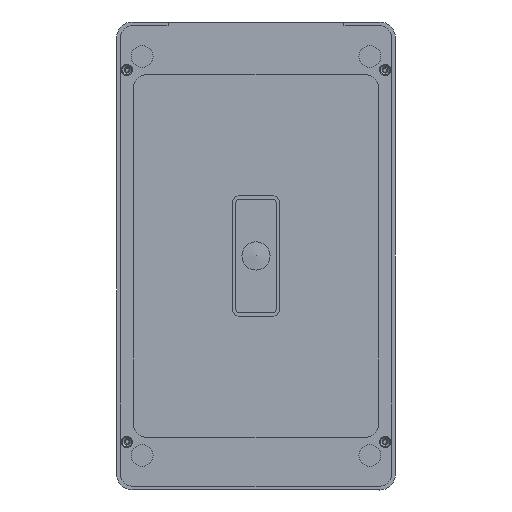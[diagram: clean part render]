
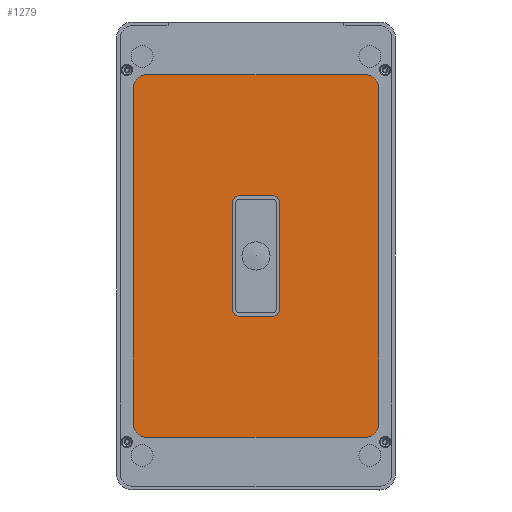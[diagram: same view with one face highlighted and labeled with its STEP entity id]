
A CAD part, front view. The second image highlights one B-rep face of the part: STEP entity #1279.
In plain terms, the highlighted planar face has unit normal (0, -1, 0).
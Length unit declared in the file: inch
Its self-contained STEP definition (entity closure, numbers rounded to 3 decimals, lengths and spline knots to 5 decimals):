
#188 = ORIENTED_EDGE ( 'NONE', *, *, #5947, .T. ) ;
#484 = ORIENTED_EDGE ( 'NONE', *, *, #19289, .F. ) ;
#803 = CIRCLE ( 'NONE', #13277, 0.236 ) ;
#859 = CARTESIAN_POINT ( 'NONE',  ( -1.9285, 0.06, 3.2055 ) ) ;
#900 = ORIENTED_EDGE ( 'NONE', *, *, #7408, .F. ) ;
#952 = CARTESIAN_POINT ( 'NONE',  ( -0.2955, 0.06, -0.946 ) ) ;
#1010 = ORIENTED_EDGE ( 'NONE', *, *, #17158, .T. ) ;
#1100 = VERTEX_POINT ( 'NONE', #1468 ) ;
#1114 = LINE ( 'NONE', #3205, #10664 ) ;
#1279 = ADVANCED_FACE ( 'NONE', ( #3801, #5726 ), #1929, .F. ) ;
#1468 = CARTESIAN_POINT ( 'NONE',  ( 1.9285, 0.06, -3.2055 ) ) ;
#1476 = DIRECTION ( 'NONE',  ( -1., 0., 0. ) ) ;
#1586 = ORIENTED_EDGE ( 'NONE', *, *, #2161, .T. ) ;
#1668 = VECTOR ( 'NONE', #11834, 39.37008 ) ;
#1894 = AXIS2_PLACEMENT_3D ( 'NONE', #17176, #9814, #3421 ) ;
#1929 = PLANE ( 'NONE',  #10294 ) ;
#1934 = CARTESIAN_POINT ( 'NONE',  ( 0.2955, 0.06, 0.946 ) ) ;
#2161 = EDGE_CURVE ( 'NONE', #3515, #17042, #803, .T. ) ;
#2222 = VERTEX_POINT ( 'NONE', #10840 ) ;
#2225 = ORIENTED_EDGE ( 'NONE', *, *, #8261, .F. ) ;
#2319 = CARTESIAN_POINT ( 'NONE',  ( -0.4135, 0.06, -0.946 ) ) ;
#2631 = CARTESIAN_POINT ( 'NONE',  ( 2.1645, 0.06, 2.9695 ) ) ;
#2756 = EDGE_LOOP ( 'NONE', ( #900, #7349, #13016, #484, #2225, #3609, #17540, #14825 ) ) ;
#3070 = CARTESIAN_POINT ( 'NONE',  ( -2.1645, 0.06, 2.9695 ) ) ;
#3205 = CARTESIAN_POINT ( 'NONE',  ( -2.1645, 0.06, 2.9695 ) ) ;
#3421 = DIRECTION ( 'NONE',  ( 0., 0., -1. ) ) ;
#3457 = CARTESIAN_POINT ( 'NONE',  ( 1.9285, 0.06, 2.9695 ) ) ;
#3515 = VERTEX_POINT ( 'NONE', #859 ) ;
#3609 = ORIENTED_EDGE ( 'NONE', *, *, #16102, .F. ) ;
#3760 = EDGE_CURVE ( 'NONE', #15339, #19331, #14818, .T. ) ;
#3801 = FACE_OUTER_BOUND ( 'NONE', #13700, .T. ) ;
#3827 = CARTESIAN_POINT ( 'NONE',  ( 0.2955, 0.06, 1.064 ) ) ;
#3888 = VERTEX_POINT ( 'NONE', #11191 ) ;
#4211 = EDGE_CURVE ( 'NONE', #3888, #9699, #11232, .T. ) ;
#4453 = CIRCLE ( 'NONE', #14879, 0.236 ) ;
#4521 = LINE ( 'NONE', #9073, #11430 ) ;
#4565 = CIRCLE ( 'NONE', #8160, 0.118 ) ;
#4751 = CARTESIAN_POINT ( 'NONE',  ( -0.2955, 0.06, 1.064 ) ) ;
#4844 = VECTOR ( 'NONE', #10300, 39.37008 ) ;
#5622 = CIRCLE ( 'NONE', #12617, 0.118 ) ;
#5647 = CARTESIAN_POINT ( 'NONE',  ( -0.4135, 0.06, 0.946 ) ) ;
#5726 = FACE_BOUND ( 'NONE', #2756, .T. ) ;
#5947 = EDGE_CURVE ( 'NONE', #1100, #3888, #4453, .T. ) ;
#6010 = CIRCLE ( 'NONE', #12389, 0.118 ) ;
#6048 = DIRECTION ( 'NONE',  ( 1., 0., 0. ) ) ;
#6058 = VERTEX_POINT ( 'NONE', #8660 ) ;
#6189 = ORIENTED_EDGE ( 'NONE', *, *, #8421, .T. ) ;
#6598 = CARTESIAN_POINT ( 'NONE',  ( 2.1645, 0.06, 2.9695 ) ) ;
#6673 = VERTEX_POINT ( 'NONE', #9382 ) ;
#6955 = LINE ( 'NONE', #13917, #11746 ) ;
#7059 = EDGE_CURVE ( 'NONE', #19729, #15339, #5622, .T. ) ;
#7160 = CARTESIAN_POINT ( 'NONE',  ( -0.2955, 0.06, 0.946 ) ) ;
#7256 = CARTESIAN_POINT ( 'NONE',  ( -1.9285, 0.06, -2.9695 ) ) ;
#7349 = ORIENTED_EDGE ( 'NONE', *, *, #3760, .F. ) ;
#7408 = EDGE_CURVE ( 'NONE', #19331, #2222, #13714, .T. ) ;
#7890 = EDGE_CURVE ( 'NONE', #6058, #18542, #6010, .T. ) ;
#8160 = AXIS2_PLACEMENT_3D ( 'NONE', #7160, #13009, #13079 ) ;
#8261 = EDGE_CURVE ( 'NONE', #17053, #19830, #4565, .T. ) ;
#8421 = EDGE_CURVE ( 'NONE', #6673, #3515, #13642, .T. ) ;
#8660 = CARTESIAN_POINT ( 'NONE',  ( 0.4135, 0.06, 0.946 ) ) ;
#8676 = DIRECTION ( 'NONE',  ( 0., -1., 0. ) ) ;
#8750 = CARTESIAN_POINT ( 'NONE',  ( 1.9285, 0.06, 2.9695 ) ) ;
#8901 = CARTESIAN_POINT ( 'NONE',  ( -0.2955, 0.06, -1.064 ) ) ;
#9073 = CARTESIAN_POINT ( 'NONE',  ( -0.2955, 0.06, 1.064 ) ) ;
#9208 = VECTOR ( 'NONE', #19594, 39.37008 ) ;
#9382 = CARTESIAN_POINT ( 'NONE',  ( 1.9285, 0.06, 3.2055 ) ) ;
#9699 = VERTEX_POINT ( 'NONE', #6598 ) ;
#9814 = DIRECTION ( 'NONE',  ( 0., -1., 0. ) ) ;
#10294 = AXIS2_PLACEMENT_3D ( 'NONE', #3457, #15669, #18751 ) ;
#10300 = DIRECTION ( 'NONE',  ( 0., 0., -1. ) ) ;
#10664 = VECTOR ( 'NONE', #13887, 39.37008 ) ;
#10840 = CARTESIAN_POINT ( 'NONE',  ( 0.4135, 0.06, -0.946 ) ) ;
#11191 = CARTESIAN_POINT ( 'NONE',  ( 2.1645, 0.06, -2.9695 ) ) ;
#11232 = LINE ( 'NONE', #2631, #1668 ) ;
#11430 = VECTOR ( 'NONE', #1476, 39.37008 ) ;
#11636 = DIRECTION ( 'NONE',  ( 0., 0., -1. ) ) ;
#11746 = VECTOR ( 'NONE', #15573, 39.37008 ) ;
#11813 = EDGE_CURVE ( 'NONE', #2222, #6058, #17350, .T. ) ;
#11834 = DIRECTION ( 'NONE',  ( 0., 0., 1. ) ) ;
#11894 = DIRECTION ( 'NONE',  ( 0., 0., 1. ) ) ;
#12349 = ORIENTED_EDGE ( 'NONE', *, *, #4211, .T. ) ;
#12356 = CARTESIAN_POINT ( 'NONE',  ( -1.9285, 0.06, -3.2055 ) ) ;
#12389 = AXIS2_PLACEMENT_3D ( 'NONE', #1934, #18488, #15404 ) ;
#12617 = AXIS2_PLACEMENT_3D ( 'NONE', #952, #16268, #11636 ) ;
#12704 = ORIENTED_EDGE ( 'NONE', *, *, #14157, .T. ) ;
#12739 = CARTESIAN_POINT ( 'NONE',  ( 1.9285, 0.06, -2.9695 ) ) ;
#12791 = CARTESIAN_POINT ( 'NONE',  ( -1.9285, 0.06, 2.9695 ) ) ;
#13009 = DIRECTION ( 'NONE',  ( 0., -1., 0. ) ) ;
#13016 = ORIENTED_EDGE ( 'NONE', *, *, #7059, .F. ) ;
#13018 = ORIENTED_EDGE ( 'NONE', *, *, #13849, .T. ) ;
#13079 = DIRECTION ( 'NONE',  ( 0., 0., -1. ) ) ;
#13181 = CIRCLE ( 'NONE', #15977, 0.236 ) ;
#13198 = CARTESIAN_POINT ( 'NONE',  ( 0.4135, 0.06, 0.946 ) ) ;
#13270 = CARTESIAN_POINT ( 'NONE',  ( 0.2955, 0.06, -1.064 ) ) ;
#13277 = AXIS2_PLACEMENT_3D ( 'NONE', #12791, #14324, #15857 ) ;
#13642 = LINE ( 'NONE', #15454, #16744 ) ;
#13700 = EDGE_LOOP ( 'NONE', ( #15634, #6189, #1586, #1010, #12704, #13018, #188, #12349 ) ) ;
#13714 = CIRCLE ( 'NONE', #1894, 0.118 ) ;
#13849 = EDGE_CURVE ( 'NONE', #17144, #1100, #6955, .T. ) ;
#13887 = DIRECTION ( 'NONE',  ( 0., 0., -1. ) ) ;
#13917 = CARTESIAN_POINT ( 'NONE',  ( -1.9285, 0.06, -3.2055 ) ) ;
#13924 = LINE ( 'NONE', #16286, #4844 ) ;
#14157 = EDGE_CURVE ( 'NONE', #17416, #17144, #13181, .T. ) ;
#14324 = DIRECTION ( 'NONE',  ( 0., -1., 0. ) ) ;
#14818 = LINE ( 'NONE', #18025, #15534 ) ;
#14825 = ORIENTED_EDGE ( 'NONE', *, *, #11813, .F. ) ;
#14879 = AXIS2_PLACEMENT_3D ( 'NONE', #12739, #16402, #18400 ) ;
#15339 = VERTEX_POINT ( 'NONE', #8901 ) ;
#15343 = AXIS2_PLACEMENT_3D ( 'NONE', #8750, #8676, #11894 ) ;
#15404 = DIRECTION ( 'NONE',  ( 0., 0., 1. ) ) ;
#15454 = CARTESIAN_POINT ( 'NONE',  ( -1.9285, 0.06, 3.2055 ) ) ;
#15534 = VECTOR ( 'NONE', #6048, 39.37008 ) ;
#15573 = DIRECTION ( 'NONE',  ( 1., 0., 0. ) ) ;
#15634 = ORIENTED_EDGE ( 'NONE', *, *, #15844, .T. ) ;
#15669 = DIRECTION ( 'NONE',  ( 0., 1., 0. ) ) ;
#15844 = EDGE_CURVE ( 'NONE', #9699, #6673, #19077, .T. ) ;
#15857 = DIRECTION ( 'NONE',  ( 0., 0., -1. ) ) ;
#15977 = AXIS2_PLACEMENT_3D ( 'NONE', #7256, #19574, #16314 ) ;
#16102 = EDGE_CURVE ( 'NONE', #18542, #17053, #4521, .T. ) ;
#16268 = DIRECTION ( 'NONE',  ( 0., -1., 0. ) ) ;
#16286 = CARTESIAN_POINT ( 'NONE',  ( -0.4135, 0.06, 0.946 ) ) ;
#16314 = DIRECTION ( 'NONE',  ( 0., 0., -1. ) ) ;
#16402 = DIRECTION ( 'NONE',  ( 0., -1., 0. ) ) ;
#16744 = VECTOR ( 'NONE', #16931, 39.37008 ) ;
#16931 = DIRECTION ( 'NONE',  ( -1., 0., 0. ) ) ;
#17042 = VERTEX_POINT ( 'NONE', #3070 ) ;
#17053 = VERTEX_POINT ( 'NONE', #4751 ) ;
#17144 = VERTEX_POINT ( 'NONE', #12356 ) ;
#17158 = EDGE_CURVE ( 'NONE', #17042, #17416, #1114, .T. ) ;
#17176 = CARTESIAN_POINT ( 'NONE',  ( 0.2955, 0.06, -0.946 ) ) ;
#17350 = LINE ( 'NONE', #13198, #9208 ) ;
#17416 = VERTEX_POINT ( 'NONE', #19094 ) ;
#17540 = ORIENTED_EDGE ( 'NONE', *, *, #7890, .F. ) ;
#18025 = CARTESIAN_POINT ( 'NONE',  ( -0.2955, 0.06, -1.064 ) ) ;
#18400 = DIRECTION ( 'NONE',  ( 0., 0., -1. ) ) ;
#18488 = DIRECTION ( 'NONE',  ( 0., -1., 0. ) ) ;
#18542 = VERTEX_POINT ( 'NONE', #3827 ) ;
#18751 = DIRECTION ( 'NONE',  ( 0., 0., 1. ) ) ;
#19077 = CIRCLE ( 'NONE', #15343, 0.236 ) ;
#19094 = CARTESIAN_POINT ( 'NONE',  ( -2.1645, 0.06, -2.9695 ) ) ;
#19289 = EDGE_CURVE ( 'NONE', #19830, #19729, #13924, .T. ) ;
#19331 = VERTEX_POINT ( 'NONE', #13270 ) ;
#19574 = DIRECTION ( 'NONE',  ( 0., -1., 0. ) ) ;
#19594 = DIRECTION ( 'NONE',  ( 0., 0., 1. ) ) ;
#19729 = VERTEX_POINT ( 'NONE', #2319 ) ;
#19830 = VERTEX_POINT ( 'NONE', #5647 ) ;
